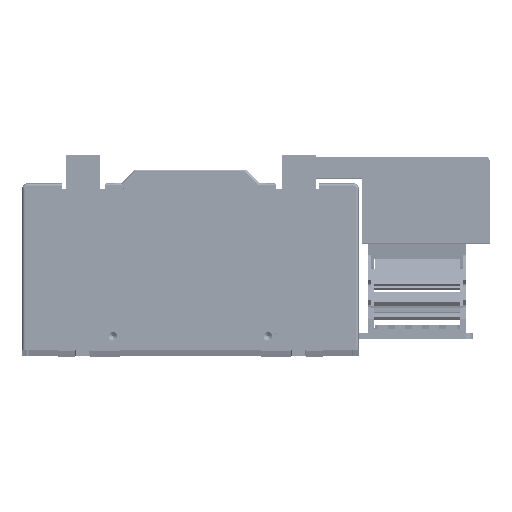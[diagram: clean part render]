
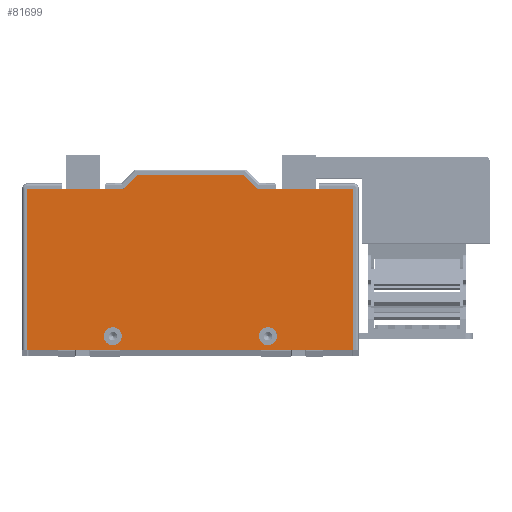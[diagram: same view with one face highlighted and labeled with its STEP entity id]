
A CAD part, top view. The second image highlights one B-rep face of the part: STEP entity #81699.
In plain terms, the highlighted planar face has unit normal (0, 0, 1) as drawn and (0, 0, -1) by its records, which use the part's own axes.
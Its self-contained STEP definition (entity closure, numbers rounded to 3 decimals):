
#14275 = VERTEX_POINT ( 'NONE', #120760 ) ;
#15309 = EDGE_CURVE ( 'NONE', #15333, #15334, #122719, .T. ) ;
#15333 = VERTEX_POINT ( 'NONE', #122750 ) ;
#15334 = VERTEX_POINT ( 'NONE', #122748 ) ;
#18385 = ORIENTED_EDGE ( 'NONE', *, *, #18387, .F. ) ;
#18387 = EDGE_CURVE ( 'NONE', #117672, #18437, #62725, .T. ) ;
#18397 = ORIENTED_EDGE ( 'NONE', *, *, #147002, .T. ) ;
#18402 = ORIENTED_EDGE ( 'NONE', *, *, #40285, .T. ) ;
#18437 = VERTEX_POINT ( 'NONE', #62735 ) ;
#18464 = VERTEX_POINT ( 'NONE', #62833 ) ;
#18465 = EDGE_CURVE ( 'NONE', #18437, #82687, #62832, .T. ) ;
#30053 = ORIENTED_EDGE ( 'NONE', *, *, #18465, .F. ) ;
#30060 = ORIENTED_EDGE ( 'NONE', *, *, #81361, .T. ) ;
#31714 = VERTEX_POINT ( 'NONE', #68174 ) ;
#32488 = EDGE_CURVE ( 'NONE', #83109, #31714, #69056, .T. ) ;
#32492 = ORIENTED_EDGE ( 'NONE', *, *, #32488, .F. ) ;
#32519 = EDGE_CURVE ( 'NONE', #31714, #18464, #69221, .T. ) ;
#32543 = ORIENTED_EDGE ( 'NONE', *, *, #32519, .F. ) ;
#32547 = ORIENTED_EDGE ( 'NONE', *, *, #81495, .T. ) ;
#33443 = CARTESIAN_POINT ( 'NONE',  ( -34.941, 76.299, 0. ) ) ;
#33444 = CIRCLE ( 'NONE', #33515, 5.25 ) ;
#33513 = DIRECTION ( 'NONE',  ( -1., 0., 0. ) ) ;
#33514 = DIRECTION ( 'NONE',  ( 0., 0., -1. ) ) ;
#33515 = AXIS2_PLACEMENT_3D ( 'NONE', #33443, #33514, #33513 ) ;
#33634 = DIRECTION ( 'NONE',  ( -1., 0., 0. ) ) ;
#33635 = DIRECTION ( 'NONE',  ( 0., 0., -1. ) ) ;
#33636 = CARTESIAN_POINT ( 'NONE',  ( -125.441, 76.299, 0. ) ) ;
#33637 = AXIS2_PLACEMENT_3D ( 'NONE', #33636, #33635, #33634 ) ;
#33638 = CIRCLE ( 'NONE', #33637, 5.25 ) ;
#33711 = DIRECTION ( 'NONE',  ( -1., 0., 0. ) ) ;
#33712 = VECTOR ( 'NONE', #33711, 1000. ) ;
#33713 = CARTESIAN_POINT ( 'NONE',  ( 14.809, -17.701, 0. ) ) ;
#33714 = LINE ( 'NONE', #33713, #33712 ) ;
#33779 = DIRECTION ( 'NONE',  ( 0., -1., 0. ) ) ;
#33780 = VECTOR ( 'NONE', #33779, 1000. ) ;
#33782 = CARTESIAN_POINT ( 'NONE',  ( 14.809, 84.299, 0. ) ) ;
#33783 = LINE ( 'NONE', #33782, #33780 ) ;
#33934 = DIRECTION ( 'NONE',  ( 1., 0., 0. ) ) ;
#33935 = DIRECTION ( 'NONE',  ( 0., 0., 1. ) ) ;
#33936 = CARTESIAN_POINT ( 'NONE',  ( -175.191, 84.299, 0. ) ) ;
#33937 = AXIS2_PLACEMENT_3D ( 'NONE', #33936, #33935, #33934 ) ;
#33938 = FACE_OUTER_BOUND ( 'NONE', #43628, .T. ) ;
#33939 = FACE_BOUND ( 'NONE', #81311, .T. ) ;
#33940 = FACE_BOUND ( 'NONE', #82211, .T. ) ;
#33945 = PLANE ( 'NONE',  #33937 ) ;
#35110 = CARTESIAN_POINT ( 'NONE',  ( -111.191, -17.701, 0. ) ) ;
#35464 = CARTESIAN_POINT ( 'NONE',  ( -49.191, -17.701, 0. ) ) ;
#40285 = EDGE_CURVE ( 'NONE', #117672, #147026, #136398, .T. ) ;
#43628 = EDGE_LOOP ( 'NONE', ( #32547, #32543, #32492, #30060, #30053, #18385, #18402, #18397 ) ) ;
#50316 = CARTESIAN_POINT ( 'NONE',  ( -29.691, 76.299, 0. ) ) ;
#57414 = DIRECTION ( 'NONE',  ( -1., 0., 0. ) ) ;
#57415 = DIRECTION ( 'NONE',  ( 0., 0., -1. ) ) ;
#57416 = CARTESIAN_POINT ( 'NONE',  ( -34.941, 76.299, 0. ) ) ;
#57417 = AXIS2_PLACEMENT_3D ( 'NONE', #57416, #57415, #57414 ) ;
#57418 = CIRCLE ( 'NONE', #57417, 5.25 ) ;
#58644 = CARTESIAN_POINT ( 'NONE',  ( -175.191, -9.701, 0. ) ) ;
#62722 = DIRECTION ( 'NONE',  ( 1., 0., 0. ) ) ;
#62723 = VECTOR ( 'NONE', #62722, 1000. ) ;
#62724 = CARTESIAN_POINT ( 'NONE',  ( -119.191, -9.701, 0. ) ) ;
#62725 = LINE ( 'NONE', #62724, #62723 ) ;
#62735 = CARTESIAN_POINT ( 'NONE',  ( -119.191, -9.701, 0. ) ) ;
#62829 = DIRECTION ( 'NONE',  ( 0.707, -0.707, 0. ) ) ;
#62830 = VECTOR ( 'NONE', #62829, 1000. ) ;
#62831 = CARTESIAN_POINT ( 'NONE',  ( -111.191, -17.701, 0. ) ) ;
#62832 = LINE ( 'NONE', #62831, #62830 ) ;
#62833 = CARTESIAN_POINT ( 'NONE',  ( 14.809, -9.701, 0. ) ) ;
#68174 = CARTESIAN_POINT ( 'NONE',  ( -41.191, -9.701, 0. ) ) ;
#69051 = DIRECTION ( 'NONE',  ( 0.707, 0.707, 0. ) ) ;
#69053 = VECTOR ( 'NONE', #69051, 1000. ) ;
#69054 = CARTESIAN_POINT ( 'NONE',  ( -41.191, -9.701, 0. ) ) ;
#69056 = LINE ( 'NONE', #69054, #69053 ) ;
#69217 = DIRECTION ( 'NONE',  ( 1., 0., 0. ) ) ;
#69218 = VECTOR ( 'NONE', #69217, 1000. ) ;
#69219 = CARTESIAN_POINT ( 'NONE',  ( 14.809, -9.701, 0. ) ) ;
#69221 = LINE ( 'NONE', #69219, #69218 ) ;
#80918 = EDGE_CURVE ( 'NONE', #14275, #109250, #33444, .T. ) ;
#81072 = ORIENTED_EDGE ( 'NONE', *, *, #80918, .F. ) ;
#81276 = EDGE_CURVE ( 'NONE', #15334, #15333, #33638, .T. ) ;
#81311 = EDGE_LOOP ( 'NONE', ( #81072, #92045 ) ) ;
#81361 = EDGE_CURVE ( 'NONE', #83109, #82687, #33714, .T. ) ;
#81470 = ORIENTED_EDGE ( 'NONE', *, *, #15309, .F. ) ;
#81495 = EDGE_CURVE ( 'NONE', #147050, #18464, #33783, .T. ) ;
#81699 = ADVANCED_FACE ( 'NONE', ( #33940, #33939, #33938 ), #33945, .F. ) ;
#82211 = EDGE_LOOP ( 'NONE', ( #82301, #81470 ) ) ;
#82301 = ORIENTED_EDGE ( 'NONE', *, *, #81276, .F. ) ;
#82687 = VERTEX_POINT ( 'NONE', #35110 ) ;
#83109 = VERTEX_POINT ( 'NONE', #35464 ) ;
#85729 = CARTESIAN_POINT ( 'NONE',  ( 14.809, 84.299, 0. ) ) ;
#85737 = CARTESIAN_POINT ( 'NONE',  ( -175.191, 84.299, 0. ) ) ;
#85738 = DIRECTION ( 'NONE',  ( 1., 0., 0. ) ) ;
#85739 = VECTOR ( 'NONE', #85738, 1000. ) ;
#85740 = CARTESIAN_POINT ( 'NONE',  ( -175.191, 84.299, 0. ) ) ;
#85746 = LINE ( 'NONE', #85740, #85739 ) ;
#92045 = ORIENTED_EDGE ( 'NONE', *, *, #113372, .F. ) ;
#109250 = VERTEX_POINT ( 'NONE', #50316 ) ;
#113372 = EDGE_CURVE ( 'NONE', #109250, #14275, #57418, .T. ) ;
#117672 = VERTEX_POINT ( 'NONE', #58644 ) ;
#120760 = CARTESIAN_POINT ( 'NONE',  ( -40.191, 76.299, 0. ) ) ;
#122715 = DIRECTION ( 'NONE',  ( -1., 0., 0. ) ) ;
#122716 = DIRECTION ( 'NONE',  ( 0., 0., -1. ) ) ;
#122717 = CARTESIAN_POINT ( 'NONE',  ( -125.441, 76.299, 0. ) ) ;
#122718 = AXIS2_PLACEMENT_3D ( 'NONE', #122717, #122716, #122715 ) ;
#122719 = CIRCLE ( 'NONE', #122718, 5.25 ) ;
#122748 = CARTESIAN_POINT ( 'NONE',  ( -130.691, 76.299, 0. ) ) ;
#122750 = CARTESIAN_POINT ( 'NONE',  ( -120.191, 76.299, 0. ) ) ;
#136395 = DIRECTION ( 'NONE',  ( 0., 1., 0. ) ) ;
#136396 = VECTOR ( 'NONE', #136395, 1000. ) ;
#136397 = CARTESIAN_POINT ( 'NONE',  ( -175.191, -17.701, 0. ) ) ;
#136398 = LINE ( 'NONE', #136397, #136396 ) ;
#147002 = EDGE_CURVE ( 'NONE', #147026, #147050, #85746, .T. ) ;
#147026 = VERTEX_POINT ( 'NONE', #85737 ) ;
#147050 = VERTEX_POINT ( 'NONE', #85729 ) ;
